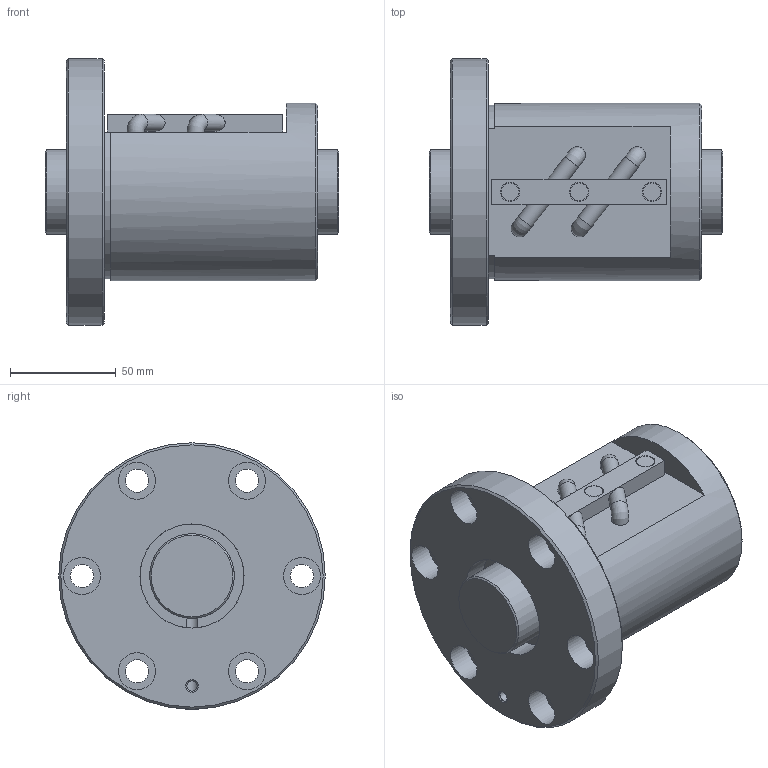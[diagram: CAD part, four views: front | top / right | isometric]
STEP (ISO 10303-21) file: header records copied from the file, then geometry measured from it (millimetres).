
FILE_DESCRIPTION(/* description */ ('STEP AP203'),/* implementation_level */ '2;1');
FILE_NAME(/* name */ 'BIF4012V-5RRG0+139LC0_000',/* time_stamp */ '2024-07-15T08:24:31+02:00',/* author */ ('License CC BY-ND 4.0'),/* organization */ ('CADENAS'),/* preprocessor_version */ 'ST-DEVELOPER v19.3',/* originating_system */ 'PARTsolutions',/* authorisation */ ' ');
FILE_SCHEMA (('CONFIG_CONTROL_DESIGN','AP242_MANAGED_MODEL_BASED_3D_ENGINEERING_MIM_LF { 1 0 10303 442 3 1 4 }'));
Length unit declared in the file: millimetre
Products named in the file (3): BIF4012V-5RRG0+139LC0_000; BIF4012V-5RR000 Shaft; BIF4012V-5RR Nut
Assembly tree (2 placements, depth 2):
  BIF4012V-5RRG0+139LC0_000
    BIF4012V-5RR000 Shaft
    BIF4012V-5RR Nut
Bounding box: 139 x 126 x 126 mm (x, y, z)
Volume: 733474.4 mm3; surface area: 100233.1 mm2
Topology: 2 solids, 2 shells, 87 faces, 195 edges, 124 vertices
Faces by surface type: plane 41, cylinder 36, cone 6, torus 4
Full cylindrical faces by diameter (mm): 4.917 x1, 6.199 x2, 8 x4, 8.5 x3, 9.1 x3, 11 x6, 17.5 x6, 40 x2, 49.2 x2, 84 x1, 126 x1
Entity records: 2349 total; most frequent: CARTESIAN_POINT 446, DIRECTION 416, ORIENTED_EDGE 288, AXIS2_PLACEMENT_3D 190, EDGE_LOOP 162, FACE_BOUND 162, EDGE_CURVE 144, VERTEX_POINT 112
